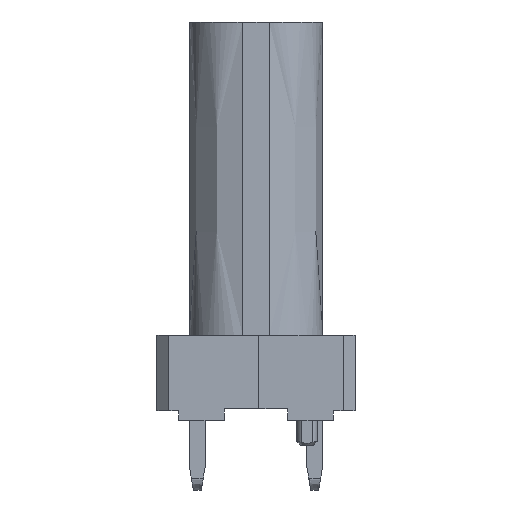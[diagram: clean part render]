
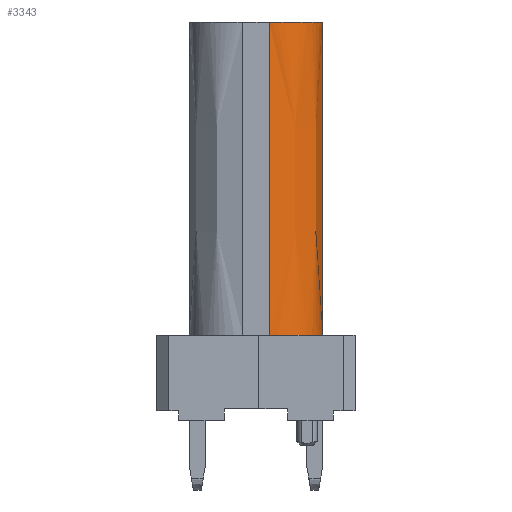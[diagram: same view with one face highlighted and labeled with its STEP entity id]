
A CAD part, left-side view. The second image highlights one B-rep face of the part: STEP entity #3343.
In plain terms, the highlighted free-form (B-spline) face has degree [3, 3] with [4, 4] control points.
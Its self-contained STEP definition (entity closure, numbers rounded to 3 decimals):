
#3343 = ADVANCED_FACE ( 'NONE', ( #42204 ), #47354, .T. ) ;
#3674 = CARTESIAN_POINT ( 'NONE',  ( -64.615, -3.736, -48.57 ) ) ;
#8737 = ORIENTED_EDGE ( 'NONE', *, *, #86856, .F. ) ;
#19063 = CARTESIAN_POINT ( 'NONE',  ( -65.406, -3.736, -48.57 ) ) ;
#20071 = CARTESIAN_POINT ( 'NONE',  ( -64.715, -3.733, -48.543 ) ) ;
#24888 = B_SPLINE_CURVE_WITH_KNOTS ( 'NONE', 3,
 ( #117204, #39394, #156543, #64214 ),
 .UNSPECIFIED., .F., .F.,
 ( 4, 4 ),
 ( 0., 1. ),
 .UNSPECIFIED. ) ;
#25443 = CARTESIAN_POINT ( 'NONE',  ( -65.965, -2.386, -43.277 ) ) ;
#32727 = CARTESIAN_POINT ( 'NONE',  ( -64.615, -3.736, -48.57 ) ) ;
#34989 = CARTESIAN_POINT ( 'NONE',  ( -64.615, -3.736, -40.643 ) ) ;
#38137 = ORIENTED_EDGE ( 'NONE', *, *, #133933, .T. ) ;
#39394 = CARTESIAN_POINT ( 'NONE',  ( -64.646, -3.736, -48.552 ) ) ;
#42204 = FACE_OUTER_BOUND ( 'NONE', #58567, .T. ) ;
#43058 = CARTESIAN_POINT ( 'NONE',  ( -65.406, -3.736, -40.643 ) ) ;
#44763 = CARTESIAN_POINT ( 'NONE',  ( -65.965, -3.177, -48.57 ) ) ;
#47354 =( BOUNDED_SURFACE ( )  B_SPLINE_SURFACE ( 3, 3, ( 
 ( #137072, #134544, #97737, #120831 ),
 ( #44763, #58419, #136225, #72108 ),
 ( #19063, #108868, #147353, #43058 ),
 ( #3674, #110567, #161046, #146509 ) ),
 .UNSPECIFIED., .F., .F., .F. ) 
 B_SPLINE_SURFACE_WITH_KNOTS ( ( 4, 4 ),
 ( 4, 4 ),
 ( 0., 1. ),
 ( 0.159, 8.085 ),
 .UNSPECIFIED. ) 
 GEOMETRIC_REPRESENTATION_ITEM ( )  RATIONAL_B_SPLINE_SURFACE ( (
 ( 1.172, 1.172, 1.172, 1.172),
 ( 0.943, 0.943, 0.943, 0.943),
 ( 0.943, 0.943, 0.943, 0.943),
 ( 1.172, 1.172, 1.172, 1.172) ) ) 
 REPRESENTATION_ITEM ( '' )  SURFACE ( )  );
#48020 = ORIENTED_EDGE ( 'NONE', *, *, #86044, .F. ) ;
#50925 = B_SPLINE_CURVE_WITH_KNOTS ( 'NONE', 1,
 ( #150666, #32727 ),
 .UNSPECIFIED., .F., .F.,
 ( 2, 2 ),
 ( 0., 1. ),
 .UNSPECIFIED. ) ;
#58419 = CARTESIAN_POINT ( 'NONE',  ( -65.965, -3.177, -45.928 ) ) ;
#58567 = EDGE_LOOP ( 'NONE', ( #8737, #77664, #38137, #137775, #48020 ) ) ;
#58953 = CARTESIAN_POINT ( 'NONE',  ( -65.965, -3.177, -40.643 ) ) ;
#59190 = VERTEX_POINT ( 'NONE', #99926 ) ;
#59445 = CARTESIAN_POINT ( 'NONE',  ( -65.462, -3.677, -48.543 ) ) ;
#64214 = CARTESIAN_POINT ( 'NONE',  ( -64.715, -3.733, -48.543 ) ) ;
#67770 = CARTESIAN_POINT ( 'NONE',  ( -65.965, -2.386, -40.643 ) ) ;
#72108 = CARTESIAN_POINT ( 'NONE',  ( -65.965, -3.177, -40.643 ) ) ;
#77550 = VERTEX_POINT ( 'NONE', #67770 ) ;
#77664 = ORIENTED_EDGE ( 'NONE', *, *, #94261, .T. ) ;
#84179 = CARTESIAN_POINT ( 'NONE',  ( -64.715, -3.733, -48.543 ) ) ;
#84266 = CARTESIAN_POINT ( 'NONE',  ( -65.965, -2.386, -48.543 ) ) ;
#86044 = EDGE_CURVE ( 'NONE', #86810, #135957, #24888, .T. ) ;
#86810 = VERTEX_POINT ( 'NONE', #97678 ) ;
#86856 = EDGE_CURVE ( 'NONE', #95464, #86810, #50925, .T. ) ;
#94261 = EDGE_CURVE ( 'NONE', #95464, #77550, #131320, .T. ) ;
#95464 = VERTEX_POINT ( 'NONE', #101340 ) ;
#97678 = CARTESIAN_POINT ( 'NONE',  ( -64.615, -3.736, -48.57 ) ) ;
#97737 = CARTESIAN_POINT ( 'NONE',  ( -65.965, -2.386, -43.286 ) ) ;
#99926 = CARTESIAN_POINT ( 'NONE',  ( -65.965, -2.386, -48.543 ) ) ;
#101340 = CARTESIAN_POINT ( 'NONE',  ( -64.615, -3.736, -40.643 ) ) ;
#108868 = CARTESIAN_POINT ( 'NONE',  ( -65.406, -3.736, -45.928 ) ) ;
#110567 = CARTESIAN_POINT ( 'NONE',  ( -64.615, -3.736, -45.928 ) ) ;
#113617 = CARTESIAN_POINT ( 'NONE',  ( -65.406, -3.736, -40.643 ) ) ;
#114782 =( BOUNDED_CURVE ( )  B_SPLINE_CURVE ( 3, ( #84266, #136404, #59445, #20071 ),
 .UNSPECIFIED., .F., .F. ) 
 B_SPLINE_CURVE_WITH_KNOTS ( ( 4, 4 ),
 ( 0., 1. ),
 .UNSPECIFIED. ) 
 CURVE ( )  GEOMETRIC_REPRESENTATION_ITEM ( )  RATIONAL_B_SPLINE_CURVE ( ( 1.172, 0.955, 0.943, 1.138 ) ) 
 REPRESENTATION_ITEM ( '' )  );
#117204 = CARTESIAN_POINT ( 'NONE',  ( -64.615, -3.736, -48.57 ) ) ;
#120831 = CARTESIAN_POINT ( 'NONE',  ( -65.965, -2.386, -40.643 ) ) ;
#131320 =( BOUNDED_CURVE ( )  B_SPLINE_CURVE ( 3, ( #34989, #113617, #58953, #164961 ),
 .UNSPECIFIED., .F., .F. ) 
 B_SPLINE_CURVE_WITH_KNOTS ( ( 4, 4 ),
 ( 0., 1. ),
 .UNSPECIFIED. ) 
 CURVE ( )  GEOMETRIC_REPRESENTATION_ITEM ( )  RATIONAL_B_SPLINE_CURVE ( ( 1.172, 0.943, 0.943, 1.172 ) ) 
 REPRESENTATION_ITEM ( '' )  );
#133245 =( BOUNDED_CURVE ( )  B_SPLINE_CURVE ( 3, ( #142578, #25443, #152883, #153724 ),
 .UNSPECIFIED., .F., .F. ) 
 B_SPLINE_CURVE_WITH_KNOTS ( ( 4, 4 ),
 ( 0., 1. ),
 .UNSPECIFIED. ) 
 CURVE ( )  GEOMETRIC_REPRESENTATION_ITEM ( )  RATIONAL_B_SPLINE_CURVE ( ( 1.172, 1.172, 1.172, 1.172 ) ) 
 REPRESENTATION_ITEM ( '' )  );
#133933 = EDGE_CURVE ( 'NONE', #77550, #59190, #133245, .T. ) ;
#134064 = EDGE_CURVE ( 'NONE', #59190, #135957, #114782, .T. ) ;
#134544 = CARTESIAN_POINT ( 'NONE',  ( -65.965, -2.386, -45.928 ) ) ;
#135957 = VERTEX_POINT ( 'NONE', #84179 ) ;
#136225 = CARTESIAN_POINT ( 'NONE',  ( -65.965, -3.177, -43.286 ) ) ;
#136404 = CARTESIAN_POINT ( 'NONE',  ( -65.965, -3.127, -48.543 ) ) ;
#137072 = CARTESIAN_POINT ( 'NONE',  ( -65.965, -2.386, -48.57 ) ) ;
#137775 = ORIENTED_EDGE ( 'NONE', *, *, #134064, .T. ) ;
#142578 = CARTESIAN_POINT ( 'NONE',  ( -65.965, -2.386, -40.643 ) ) ;
#146509 = CARTESIAN_POINT ( 'NONE',  ( -64.615, -3.736, -40.643 ) ) ;
#147353 = CARTESIAN_POINT ( 'NONE',  ( -65.406, -3.736, -43.286 ) ) ;
#150666 = CARTESIAN_POINT ( 'NONE',  ( -64.615, -3.736, -40.643 ) ) ;
#152883 = CARTESIAN_POINT ( 'NONE',  ( -65.965, -2.386, -45.91 ) ) ;
#153724 = CARTESIAN_POINT ( 'NONE',  ( -65.965, -2.386, -48.543 ) ) ;
#156543 = CARTESIAN_POINT ( 'NONE',  ( -64.682, -3.735, -48.543 ) ) ;
#161046 = CARTESIAN_POINT ( 'NONE',  ( -64.615, -3.736, -43.286 ) ) ;
#164961 = CARTESIAN_POINT ( 'NONE',  ( -65.965, -2.386, -40.643 ) ) ;
